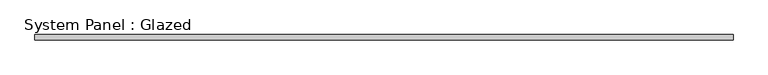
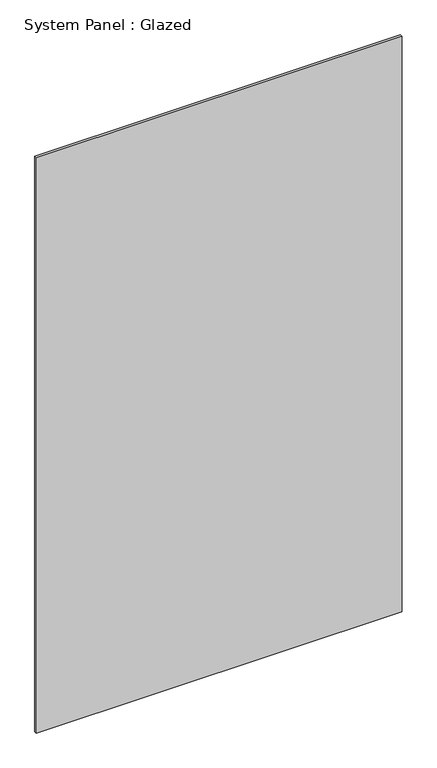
"""IFC4 building model written with IfcOpenShell, lengths in millimetres: plate geometry, System Panel : Glazed."""

from ifc_helpers import new_model, si_unit, origin, origin_with_axes, place, context, project, spatial, polyline, outline, extrude, source, transform, mapped, element, save


def system_panel_glazed_fcb7b072(model_context):
    return source(origin(), model_context, "Body", "SweptSolid", [
        extrude(outline(polyline([(802.5978792, 4.0), (-802.5978792, 4.0), (-802.5978792, 16.0), (802.5978792, 16.0), (802.5978792, 4.0)])), origin_with_axes(), (0.0, 0.0, 1.0), 2670.0),
    ])


if __name__ == "__main__":
    model = new_model("IFC4")
    model_context = context("Model", 3, world=origin())
    ifc_project = project(units=[si_unit("LENGTHUNIT", "METRE", prefix="MILLI")], contexts=[model_context])
    site = spatial("IfcSite", under=ifc_project)
    building = spatial("IfcBuilding", under=site)
    placement = place(None, origin())
    system_panel_glazed_shape = system_panel_glazed_fcb7b072(model_context)
    element("IfcPlate", 1, ObjectType="System Panel : Glazed", at=placement, inside=building, context=model_context, shape_type="MappedRepresentation", body=[
        mapped(system_panel_glazed_shape, transform((0.0, 0.0, 0.0), x_axis=(1.0, 0.0, 0.0), y_axis=(0.0, 1.0, 0.0), z_axis=(0.0, 0.0, 1.0))),
    ])
    save(model, "model.ifc")
